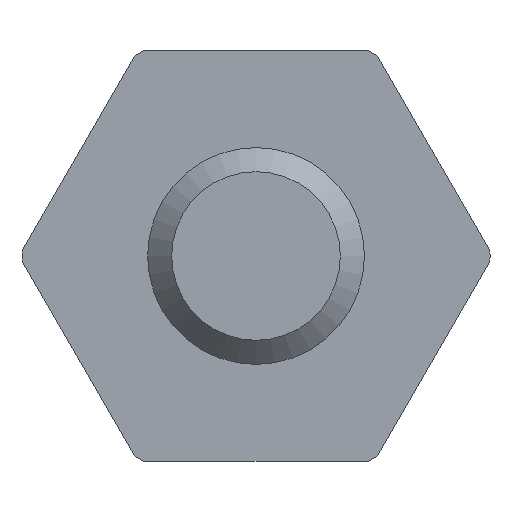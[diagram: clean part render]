
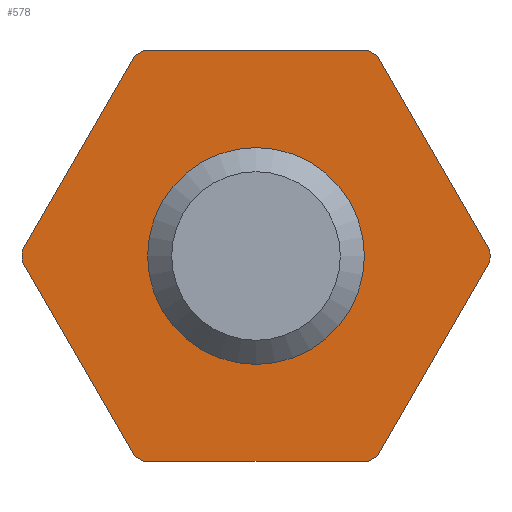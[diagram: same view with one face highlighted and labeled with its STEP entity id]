
A CAD part, left-side view. The second image highlights one B-rep face of the part: STEP entity #578.
In plain terms, the highlighted planar face has unit normal (-1, 0, 0).
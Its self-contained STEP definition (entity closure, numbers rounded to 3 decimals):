
#25=FACE_BOUND($,#146,.T.);
#52=CIRCLE($,#616,2.715);
#53=CIRCLE($,#618,2.715);
#54=CIRCLE($,#620,2.715);
#55=CIRCLE($,#622,2.715);
#56=CIRCLE($,#624,2.715);
#59=CIRCLE($,#639,1.257);
#60=CIRCLE($,#642,2.715);
#107=FACE_OUTER_BOUND($,#145,.T.);
#145=EDGE_LOOP($,(#498,#499,#500,#501,#502,#503,#504,#505,#506,#507,#508,
#509));
#146=EDGE_LOOP($,(#510));
#173=LINE($,#884,#213);
#177=LINE($,#893,#217);
#181=LINE($,#902,#221);
#185=LINE($,#911,#225);
#189=LINE($,#920,#229);
#196=LINE($,#953,#236);
#213=VECTOR($,#697,2.607);
#217=VECTOR($,#703,2.607);
#221=VECTOR($,#709,2.607);
#225=VECTOR($,#715,2.607);
#229=VECTOR($,#721,2.607);
#236=VECTOR($,#766,2.607);
#259=VERTEX_POINT($,#882);
#260=VERTEX_POINT($,#883);
#263=VERTEX_POINT($,#891);
#264=VERTEX_POINT($,#892);
#267=VERTEX_POINT($,#900);
#268=VERTEX_POINT($,#901);
#271=VERTEX_POINT($,#909);
#272=VERTEX_POINT($,#910);
#275=VERTEX_POINT($,#918);
#276=VERTEX_POINT($,#919);
#282=VERTEX_POINT($,#939);
#283=VERTEX_POINT($,#949);
#294=VERTEX_POINT($,#1063);
#321=EDGE_CURVE($,#259,#260,#173,.T.);
#325=EDGE_CURVE($,#263,#264,#177,.T.);
#329=EDGE_CURVE($,#267,#268,#181,.T.);
#333=EDGE_CURVE($,#271,#272,#185,.T.);
#337=EDGE_CURVE($,#275,#276,#189,.T.);
#349=EDGE_CURVE($,#259,#282,#52,.T.);
#351=EDGE_CURVE($,#263,#276,#53,.T.);
#352=EDGE_CURVE($,#275,#272,#54,.T.);
#353=EDGE_CURVE($,#271,#268,#55,.T.);
#355=EDGE_CURVE($,#283,#264,#56,.T.);
#356=EDGE_CURVE($,#283,#282,#196,.T.);
#371=EDGE_CURVE($,#294,#294,#59,.T.);
#372=EDGE_CURVE($,#267,#260,#60,.T.);
#498=ORIENTED_EDGE($,*,*,#321,.T.);
#499=ORIENTED_EDGE($,*,*,#372,.F.);
#500=ORIENTED_EDGE($,*,*,#329,.T.);
#501=ORIENTED_EDGE($,*,*,#353,.F.);
#502=ORIENTED_EDGE($,*,*,#333,.T.);
#503=ORIENTED_EDGE($,*,*,#352,.F.);
#504=ORIENTED_EDGE($,*,*,#337,.T.);
#505=ORIENTED_EDGE($,*,*,#351,.F.);
#506=ORIENTED_EDGE($,*,*,#325,.T.);
#507=ORIENTED_EDGE($,*,*,#355,.F.);
#508=ORIENTED_EDGE($,*,*,#356,.T.);
#509=ORIENTED_EDGE($,*,*,#349,.F.);
#510=ORIENTED_EDGE($,*,*,#371,.T.);
#549=PLANE($,#641);
#578=ADVANCED_FACE($,(#107,#25),#549,.T.);
#616=AXIS2_PLACEMENT_3D($,#940,#744,#745);
#618=AXIS2_PLACEMENT_3D($,#943,#749,#750);
#620=AXIS2_PLACEMENT_3D($,#945,#753,#754);
#622=AXIS2_PLACEMENT_3D($,#947,#757,#758);
#624=AXIS2_PLACEMENT_3D($,#951,#762,#763);
#639=AXIS2_PLACEMENT_3D($,#1064,#797,#798);
#641=AXIS2_PLACEMENT_3D($,#1066,#801,#802);
#642=AXIS2_PLACEMENT_3D($,#1067,#803,#804);
#697=DIRECTION($,(0.,0.5,-0.866));
#703=DIRECTION($,(0.,0.5,0.866));
#709=DIRECTION($,(0.,-0.5,-0.866));
#715=DIRECTION($,(0.,-1.,0.));
#721=DIRECTION($,(0.,-0.5,0.866));
#744=DIRECTION('center_axis',(1.,0.,0.));
#745=DIRECTION('ref_axis',(0.,0.,-1.));
#749=DIRECTION('center_axis',(1.,0.,0.));
#750=DIRECTION('ref_axis',(0.,0.,-1.));
#753=DIRECTION('center_axis',(1.,0.,0.));
#754=DIRECTION('ref_axis',(0.,0.,-1.));
#757=DIRECTION('center_axis',(1.,0.,0.));
#758=DIRECTION('ref_axis',(0.,0.,-1.));
#762=DIRECTION('center_axis',(1.,0.,0.));
#763=DIRECTION('ref_axis',(0.,0.,-1.));
#766=DIRECTION($,(0.,1.,0.));
#797=DIRECTION('center_axis',(1.,0.,0.));
#798=DIRECTION('ref_axis',(0.,0.,-1.));
#801=DIRECTION('center_axis',(-1.,0.,0.));
#802=DIRECTION('ref_axis',(0.,0.,1.));
#803=DIRECTION('center_axis',(1.,0.,0.));
#804=DIRECTION('ref_axis',(0.,0.,-1.));
#882=CARTESIAN_POINT('',(7.925,1.411,2.319));
#883=CARTESIAN_POINT('',(7.925,2.714,0.062));
#884=CARTESIAN_POINT($,(7.925,2.325,0.736));
#891=CARTESIAN_POINT('',(7.925,-2.714,0.062));
#892=CARTESIAN_POINT('',(7.925,-1.411,2.319));
#893=CARTESIAN_POINT($,(7.925,-1.8,1.645));
#900=CARTESIAN_POINT('',(7.925,2.714,-0.062));
#901=CARTESIAN_POINT('',(7.925,1.411,-2.319));
#902=CARTESIAN_POINT($,(7.925,2.478,-0.47));
#909=CARTESIAN_POINT('',(7.925,1.303,-2.381));
#910=CARTESIAN_POINT('',(7.925,-1.303,-2.381));
#911=CARTESIAN_POINT($,(7.925,1.511,-2.381));
#918=CARTESIAN_POINT('',(7.925,-1.411,-2.319));
#919=CARTESIAN_POINT('',(7.925,-2.714,-0.062));
#920=CARTESIAN_POINT($,(7.925,-1.646,-1.911));
#939=CARTESIAN_POINT('',(7.925,1.303,2.381));
#940=CARTESIAN_POINT('Origin',(7.925,0.,0.));
#943=CARTESIAN_POINT('Origin',(7.925,0.,0.));
#945=CARTESIAN_POINT('Origin',(7.925,0.,0.));
#947=CARTESIAN_POINT('Origin',(7.925,0.,0.));
#949=CARTESIAN_POINT('',(7.925,-1.303,2.381));
#951=CARTESIAN_POINT('Origin',(7.925,0.,0.));
#953=CARTESIAN_POINT($,(7.925,1.204,2.381));
#1063=CARTESIAN_POINT('',(7.925,1.257,0.));
#1064=CARTESIAN_POINT('Origin',(7.925,0.,0.));
#1066=CARTESIAN_POINT('Origin',(7.925,2.715,0.));
#1067=CARTESIAN_POINT('Origin',(7.925,0.,0.));
